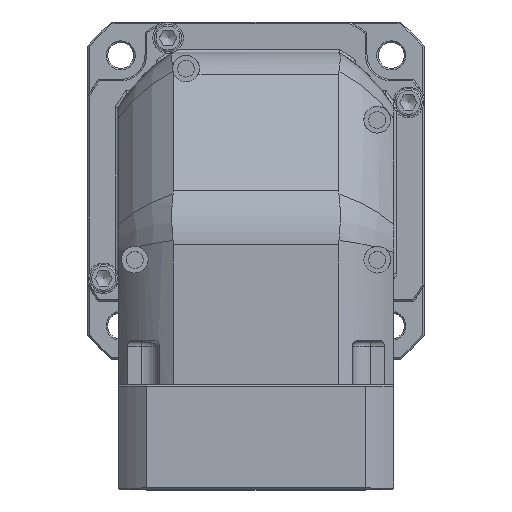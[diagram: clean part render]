
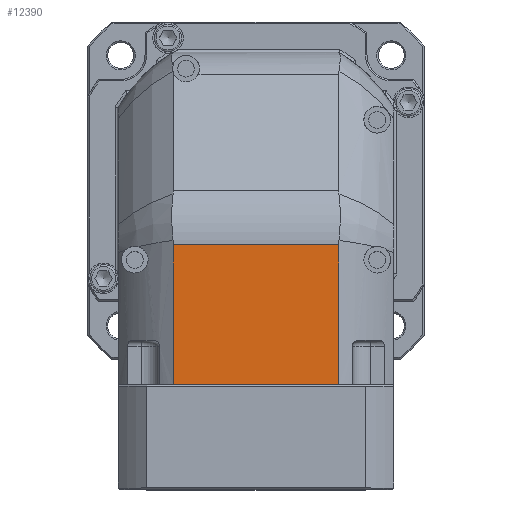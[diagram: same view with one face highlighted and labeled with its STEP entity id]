
A CAD part, top view. The second image highlights one B-rep face of the part: STEP entity #12390.
In plain terms, the highlighted planar face has unit normal (0, 0, 1).
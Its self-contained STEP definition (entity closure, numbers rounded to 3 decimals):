
#10737=CARTESIAN_POINT('',(54.083,-127.5,316.));
#10738=VERTEX_POINT('',#10737);
#10746=CARTESIAN_POINT('',(-54.083,-127.5,316.0));
#10747=VERTEX_POINT('',#10746);
#10748=CARTESIAN_POINT('',(-54.083,-127.5,316.));
#10749=DIRECTION('',(1.0,0.0,0.0));
#10750=VECTOR('',#10749,108.167);
#10751=LINE('',#10748,#10750);
#10752=EDGE_CURVE('',#10747,#10738,#10751,.T.);
#12348=CARTESIAN_POINT('',(-54.083,-36.152,316.0));
#12349=VERTEX_POINT('',#12348);
#12350=CARTESIAN_POINT('',(-54.083,-36.152,316.0));
#12351=DIRECTION('',(0.0,-1.0,0.0));
#12352=VECTOR('',#12351,91.348);
#12353=LINE('',#12350,#12352);
#12354=EDGE_CURVE('',#12349,#10747,#12353,.T.);
#12367=CARTESIAN_POINT('',(0.,0.,316.));
#12368=DIRECTION('',(0.0,0.0,-1.0));
#12369=DIRECTION('',(-1.0,0.0,0.0));
#12370=AXIS2_PLACEMENT_3D('',#12367,#12368,#12369);
#12371=PLANE('',#12370);
#12372=ORIENTED_EDGE('',*,*,#10752,.T.);
#12373=CARTESIAN_POINT('',(54.083,-36.152,316.));
#12374=VERTEX_POINT('',#12373);
#12375=CARTESIAN_POINT('',(54.083,-127.5,316.));
#12376=DIRECTION('',(0.0,1.0,0.0));
#12377=VECTOR('',#12376,91.348);
#12378=LINE('',#12375,#12377);
#12379=EDGE_CURVE('',#10738,#12374,#12378,.T.);
#12380=ORIENTED_EDGE('',*,*,#12379,.T.);
#12381=CARTESIAN_POINT('',(-54.083,-36.152,316.));
#12382=DIRECTION('',(1.0,0.0,0.0));
#12383=VECTOR('',#12382,108.167);
#12384=LINE('',#12381,#12383);
#12385=EDGE_CURVE('',#12349,#12374,#12384,.T.);
#12386=ORIENTED_EDGE('',*,*,#12385,.F.);
#12387=ORIENTED_EDGE('',*,*,#12354,.T.);
#12388=EDGE_LOOP('',(#12372,#12380,#12386,#12387));
#12389=FACE_OUTER_BOUND('',#12388,.T.);
#12390=ADVANCED_FACE('',(#12389),#12371,.F.);
